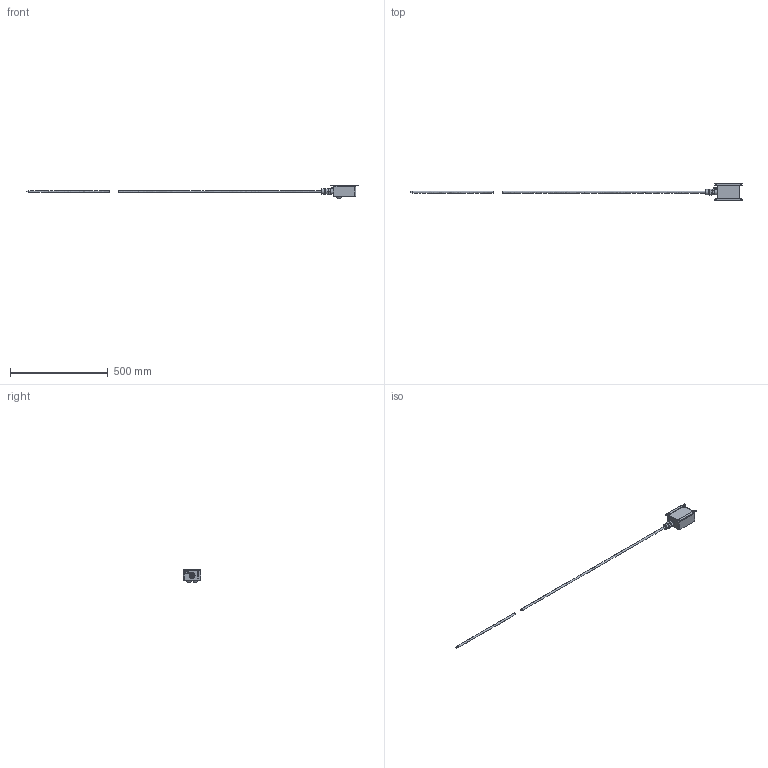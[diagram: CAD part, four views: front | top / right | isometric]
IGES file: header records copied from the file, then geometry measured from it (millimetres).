
Global section: file name: ЗАО НПК ЭТАЛОН; native system: Autodesk Inventor 2016; preprocessor: unknown; author: suhorukovav; date: 20170329.094650; units: millimetre
Bounding box: 1700 x 91.1 x 69 mm (x, y, z)
Surface area: 167315.1 mm2 (no closed solid volume)
Topology: 0 solids, 0 shells, 910 faces, 6181 edges, 5994 vertices
Faces by surface type: bspline 586, revolution 324
